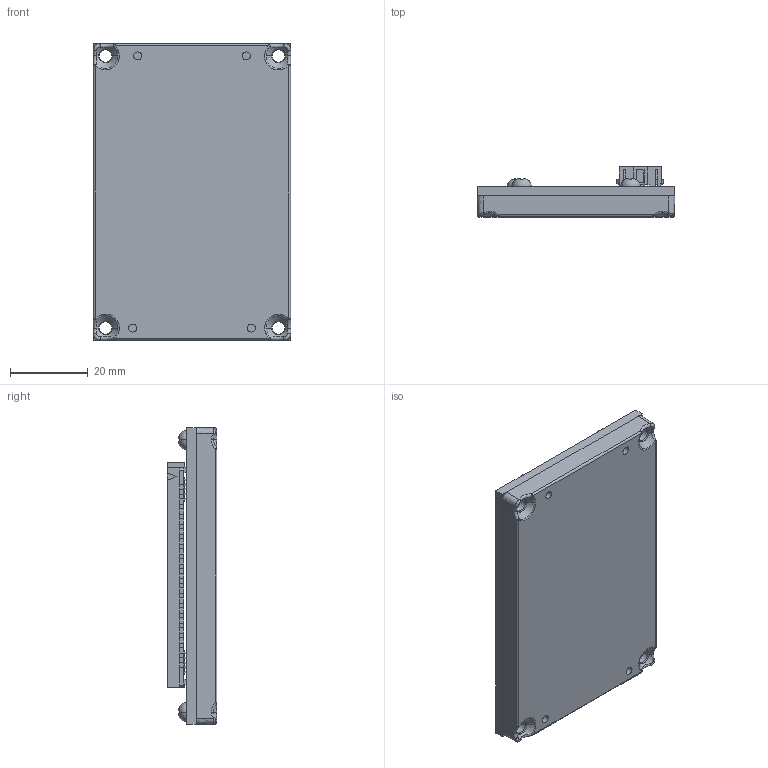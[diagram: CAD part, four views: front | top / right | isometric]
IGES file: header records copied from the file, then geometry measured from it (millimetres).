
Start section:  PTC IGES file: cu_sbrio-9651.igs
Global section: file name: cu_sbrio-9651.igs; native system: Creo Parametric by Parametric Technology Corporation; preprocessor: 2014000; author: jbuhisan; organization: Unknown; date: 20141107.090938; units: inch
Bounding box: 50.8 x 12.83 x 76.2 mm (x, y, z)
Volume: 23220.3 mm3; surface area: 20606.6 mm2
Topology: 1 solids, 1 shells, 1838 faces, 4820 edges, 3051 vertices
Faces by surface type: bspline 1502, revolution 336
